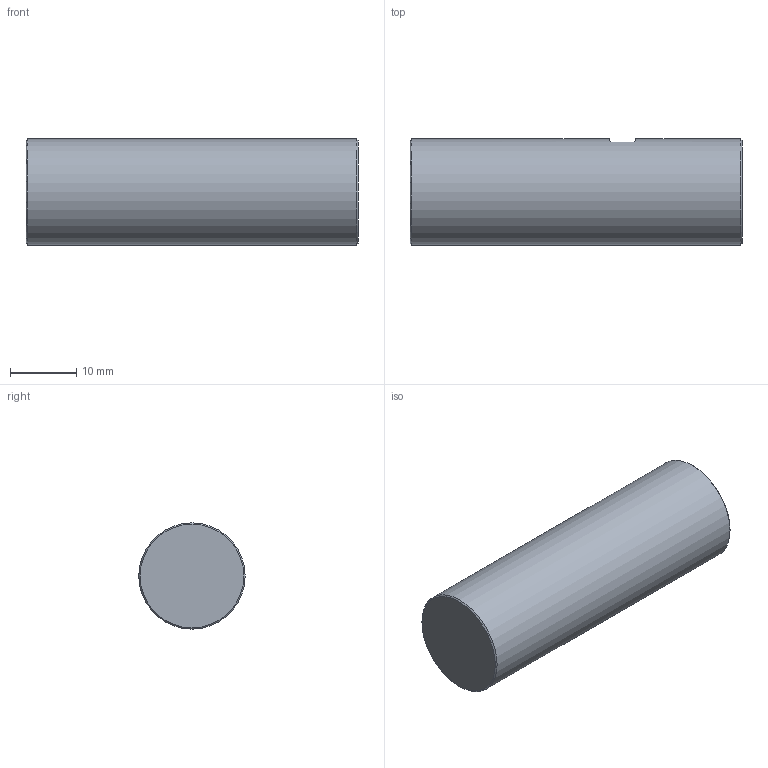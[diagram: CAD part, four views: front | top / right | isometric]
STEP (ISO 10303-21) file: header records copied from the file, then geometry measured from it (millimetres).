
FILE_DESCRIPTION(/* description */ (''),/* implementation_level */ '2;1');
FILE_NAME(/* name */ 'UF S-L050-D16-C16.stp',/* time_stamp */ '2026-03-04T21:45:53+02:00',/* author */ ('harel'),/* organization */ (''),/* preprocessor_version */ 'ST-DEVELOPER v20',/* originating_system */ 'Autodesk Inventor 2025',/* authorisation */ '');
FILE_SCHEMA (('AUTOMOTIVE_DESIGN { 1 0 10303 214 3 1 1 }'));
Length unit declared in the file: millimetre
Products named in the file (1): UF S-L045-D06-C06
Bounding box: 50 x 16 x 16 mm (x, y, z)
Volume: 10044 mm3; surface area: 2905.2 mm2
Topology: 1 solids, 1 shells, 10 faces, 19 edges, 12 vertices
Faces by surface type: plane 5, cylinder 3, cone 2
Full cylindrical faces by diameter (mm): 16 x1
Entity records: 324 total; most frequent: CARTESIAN_POINT 78, DIRECTION 43, ORIENTED_EDGE 38, EDGE_CURVE 19, AXIS2_PLACEMENT_3D 17, VERTEX_POINT 12, EDGE_LOOP 11, FACE_OUTER_BOUND 10
